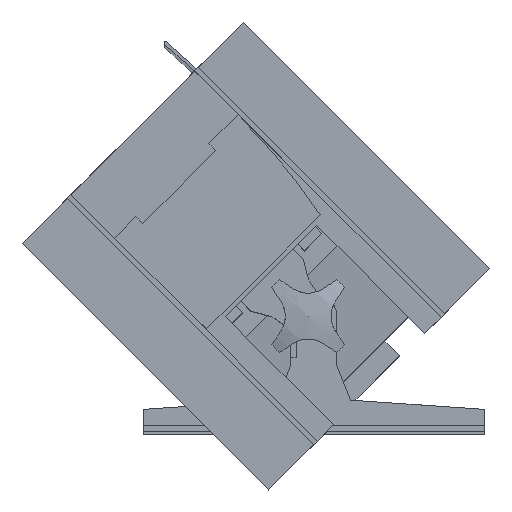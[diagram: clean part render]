
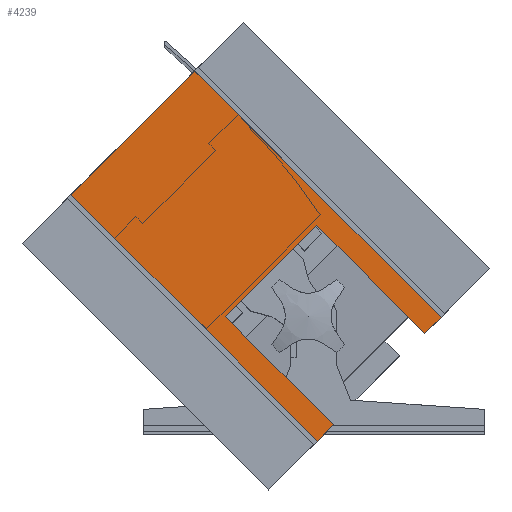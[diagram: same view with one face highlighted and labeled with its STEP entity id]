
A CAD part, top view. The second image highlights one B-rep face of the part: STEP entity #4239.
In plain terms, the highlighted planar face has unit normal (0, 0, 1).
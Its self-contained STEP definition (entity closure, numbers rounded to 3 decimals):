
#282=FACE_OUTER_BOUND('',#511,.T.);
#511=EDGE_LOOP('',(#3107,#3108,#3109,#3110,#3111,#3112,#3113,#3114));
#839=LINE('',#6387,#1366);
#842=LINE('',#6392,#1369);
#844=LINE('',#6396,#1371);
#848=LINE('',#6405,#1375);
#850=LINE('',#6409,#1377);
#851=LINE('',#6411,#1378);
#852=LINE('',#6412,#1379);
#853=LINE('',#6413,#1380);
#1366=VECTOR('',#5186,72.754);
#1369=VECTOR('',#5191,3.013);
#1371=VECTOR('',#5195,72.754);
#1375=VECTOR('',#5201,10.);
#1377=VECTOR('',#5205,6.5);
#1378=VECTOR('',#5206,10.);
#1379=VECTOR('',#5207,93.);
#1380=VECTOR('',#5208,6.5);
#1859=VERTEX_POINT('',#6385);
#1860=VERTEX_POINT('',#6386);
#1861=VERTEX_POINT('',#6391);
#1862=VERTEX_POINT('',#6395);
#1865=VERTEX_POINT('',#6402);
#1866=VERTEX_POINT('',#6404);
#1867=VERTEX_POINT('',#6408);
#1868=VERTEX_POINT('',#6410);
#2321=EDGE_CURVE('',#1859,#1860,#839,.T.);
#2324=EDGE_CURVE('',#1860,#1861,#842,.T.);
#2326=EDGE_CURVE('',#1862,#1861,#844,.T.);
#2330=EDGE_CURVE('',#1865,#1866,#848,.T.);
#2332=EDGE_CURVE('',#1867,#1859,#850,.T.);
#2333=EDGE_CURVE('',#1868,#1867,#851,.T.);
#2334=EDGE_CURVE('',#1868,#1866,#852,.T.);
#2335=EDGE_CURVE('',#1862,#1865,#853,.T.);
#3107=ORIENTED_EDGE('',*,*,#2321,.F.);
#3108=ORIENTED_EDGE('',*,*,#2332,.F.);
#3109=ORIENTED_EDGE('',*,*,#2333,.F.);
#3110=ORIENTED_EDGE('',*,*,#2334,.T.);
#3111=ORIENTED_EDGE('',*,*,#2330,.F.);
#3112=ORIENTED_EDGE('',*,*,#2335,.F.);
#3113=ORIENTED_EDGE('',*,*,#2326,.T.);
#3114=ORIENTED_EDGE('',*,*,#2324,.F.);
#4045=PLANE('',#4606);
#4239=ADVANCED_FACE('',(#282),#4045,.T.);
#4606=AXIS2_PLACEMENT_3D('',#6407,#5203,#5204);
#5186=DIRECTION('',(0.,1.,0.));
#5191=DIRECTION('',(-1.,0.,0.));
#5195=DIRECTION('',(0.,1.,0.));
#5201=DIRECTION('',(0.,1.,0.));
#5203=DIRECTION('center_axis',(0.,0.,
1.));
#5204=DIRECTION('ref_axis',(-1.,0.,0.));
#5205=DIRECTION('',(-1.,0.,0.));
#5206=DIRECTION('',(0.,-1.,0.));
#5207=DIRECTION('',(-1.,0.,0.));
#5208=DIRECTION('',(-1.,0.,0.));
#6385=CARTESIAN_POINT('',(38.,-130.022,515.1));
#6386=CARTESIAN_POINT('',(38.,-47.268,515.1));
#6387=CARTESIAN_POINT('',(38.,-125.022,515.1));
#6391=CARTESIAN_POINT('',(-32.,-47.268,515.1));
#6392=CARTESIAN_POINT('',(-23.987,-47.268,515.1));
#6395=CARTESIAN_POINT('',(-32.,-130.022,515.1));
#6396=CARTESIAN_POINT('',(-32.,-125.022,515.1));
#6402=CARTESIAN_POINT('',(-44.5,-130.022,515.1));
#6404=CARTESIAN_POINT('',(-44.5,58.732,515.1));
#6405=CARTESIAN_POINT('',(-44.5,58.732,515.1));
#6407=CARTESIAN_POINT('Origin',(53.,58.732,515.1));
#6408=CARTESIAN_POINT('',(50.5,-130.022,515.1));
#6409=CARTESIAN_POINT('',(49.5,-130.022,515.1));
#6410=CARTESIAN_POINT('',(50.5,58.732,515.1));
#6411=CARTESIAN_POINT('',(50.5,-10.645,515.1));
#6412=CARTESIAN_POINT('',(49.5,58.732,515.1));
#6413=CARTESIAN_POINT('',(-37.,-130.022,515.1));
